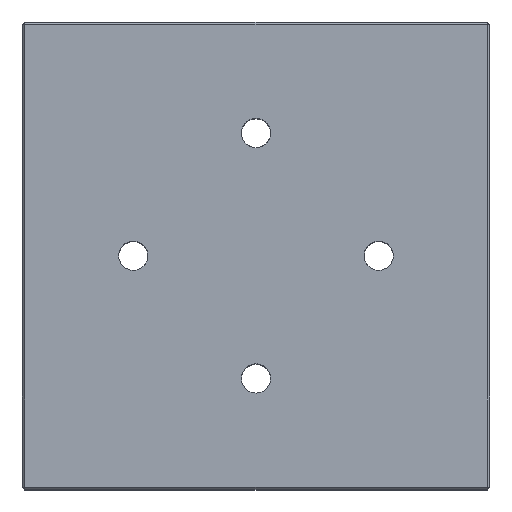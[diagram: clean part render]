
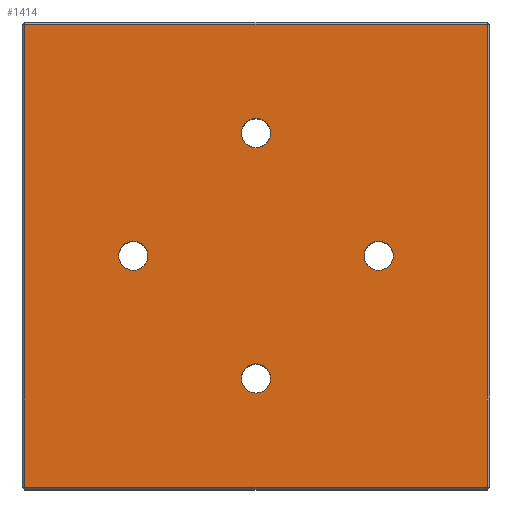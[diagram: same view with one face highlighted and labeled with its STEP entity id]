
A CAD part, top view. The second image highlights one B-rep face of the part: STEP entity #1414.
In plain terms, the highlighted planar face has unit normal (0, 0, 1).
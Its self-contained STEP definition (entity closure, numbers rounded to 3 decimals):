
#103=FACE_BOUND('',#321,.T.);
#104=FACE_BOUND('',#322,.T.);
#105=FACE_BOUND('',#323,.T.);
#106=FACE_BOUND('',#324,.T.);
#136=PLANE('',#1583);
#232=FACE_OUTER_BOUND('',#320,.T.);
#320=EDGE_LOOP('',(#1287,#1288,#1289,#1290));
#321=EDGE_LOOP('',(#1291));
#322=EDGE_LOOP('',(#1292));
#323=EDGE_LOOP('',(#1293));
#324=EDGE_LOOP('',(#1294));
#397=LINE('',#2922,#473);
#401=LINE('',#2930,#477);
#402=LINE('',#2932,#478);
#403=LINE('',#2934,#479);
#473=VECTOR('',#1927,10.);
#477=VECTOR('',#1937,10.);
#478=VECTOR('',#1940,10.);
#479=VECTOR('',#1943,10.);
#530=CIRCLE('',#1519,1.25);
#531=CIRCLE('',#1521,1.25);
#533=CIRCLE('',#1525,1.25);
#536=CIRCLE('',#1531,1.25);
#634=VERTEX_POINT('',#2479);
#635=VERTEX_POINT('',#2483);
#637=VERTEX_POINT('',#2491);
#662=VERTEX_POINT('',#2754);
#677=VERTEX_POINT('',#2895);
#679=VERTEX_POINT('',#2910);
#680=VERTEX_POINT('',#2916);
#681=VERTEX_POINT('',#2924);
#793=EDGE_CURVE('',#634,#634,#530,.T.);
#795=EDGE_CURVE('',#635,#635,#531,.T.);
#799=EDGE_CURVE('',#637,#637,#533,.T.);
#827=EDGE_CURVE('',#662,#662,#536,.T.);
#880=EDGE_CURVE('',#677,#680,#397,.T.);
#884=EDGE_CURVE('',#680,#681,#401,.T.);
#885=EDGE_CURVE('',#681,#679,#402,.T.);
#886=EDGE_CURVE('',#679,#677,#403,.T.);
#1287=ORIENTED_EDGE('',*,*,#880,.F.);
#1288=ORIENTED_EDGE('',*,*,#886,.F.);
#1289=ORIENTED_EDGE('',*,*,#885,.F.);
#1290=ORIENTED_EDGE('',*,*,#884,.F.);
#1291=ORIENTED_EDGE('',*,*,#795,.T.);
#1292=ORIENTED_EDGE('',*,*,#793,.T.);
#1293=ORIENTED_EDGE('',*,*,#799,.T.);
#1294=ORIENTED_EDGE('',*,*,#827,.T.);
#1414=ADVANCED_FACE('',(#232,#103,#104,#105,#106),#136,.T.);
#1519=AXIS2_PLACEMENT_3D('',#2480,#1780,#1781);
#1521=AXIS2_PLACEMENT_3D('',#2484,#1785,#1786);
#1525=AXIS2_PLACEMENT_3D('',#2492,#1795,#1796);
#1531=AXIS2_PLACEMENT_3D('',#2755,#1810,#1811);
#1583=AXIS2_PLACEMENT_3D('',#2938,#1949,#1950);
#1780=DIRECTION('center_axis',(0.,0.,-1.));
#1781=DIRECTION('ref_axis',(1.,0.,0.));
#1785=DIRECTION('center_axis',(0.,0.,-1.));
#1786=DIRECTION('ref_axis',(1.,0.,0.));
#1795=DIRECTION('center_axis',(0.,0.,-1.));
#1796=DIRECTION('ref_axis',(1.,0.,0.));
#1810=DIRECTION('center_axis',(0.,0.,-1.));
#1811=DIRECTION('ref_axis',(1.,0.,0.));
#1927=DIRECTION('',(0.,1.,0.));
#1937=DIRECTION('',(1.,0.,0.));
#1940=DIRECTION('',(0.,-1.,0.));
#1943=DIRECTION('',(-1.,0.,0.));
#1949=DIRECTION('center_axis',(0.,0.,1.));
#1950=DIRECTION('ref_axis',(1.,0.,0.));
#2479=CARTESIAN_POINT('',(-11.75,0.,25.));
#2480=CARTESIAN_POINT('Origin',(-10.5,0.,25.));
#2483=CARTESIAN_POINT('',(-1.25,-10.5,25.));
#2484=CARTESIAN_POINT('Origin',(0.,-10.5,25.));
#2491=CARTESIAN_POINT('',(-1.25,10.5,25.));
#2492=CARTESIAN_POINT('Origin',(0.,10.5,25.));
#2754=CARTESIAN_POINT('',(9.25,0.,25.));
#2755=CARTESIAN_POINT('Origin',(10.5,0.,25.));
#2895=CARTESIAN_POINT('',(-19.8,-19.8,25.));
#2910=CARTESIAN_POINT('',(19.8,-19.8,25.));
#2916=CARTESIAN_POINT('',(-19.8,19.8,25.));
#2922=CARTESIAN_POINT('',(-19.8,10.,25.));
#2924=CARTESIAN_POINT('',(19.8,19.8,25.));
#2930=CARTESIAN_POINT('',(10.,19.8,25.));
#2932=CARTESIAN_POINT('',(19.8,-10.,25.));
#2934=CARTESIAN_POINT('',(-10.,-19.8,25.));
#2938=CARTESIAN_POINT('Origin',(0.,0.,25.));
